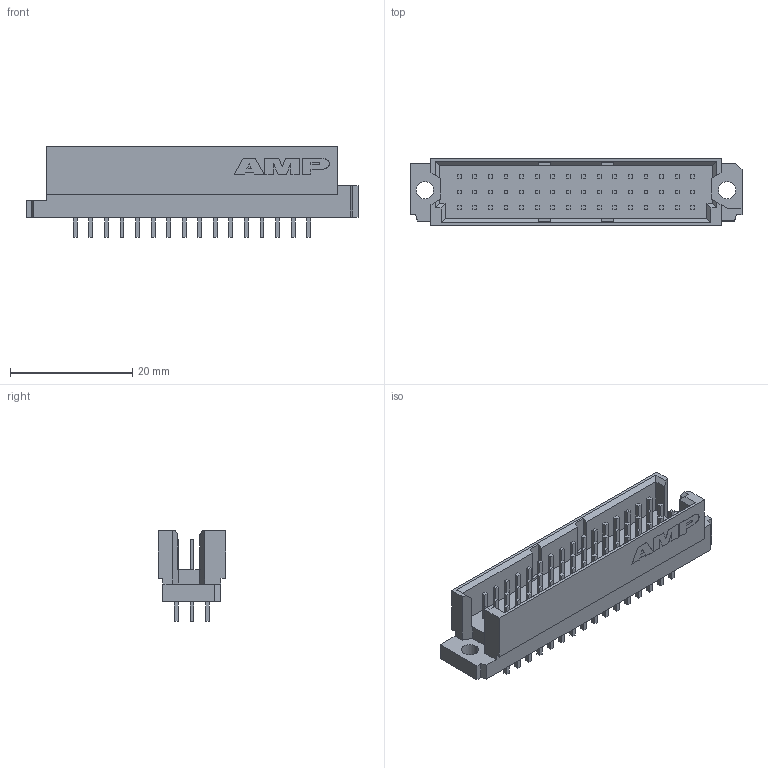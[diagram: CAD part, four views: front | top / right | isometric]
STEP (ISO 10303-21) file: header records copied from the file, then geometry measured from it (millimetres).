
FILE_DESCRIPTION((''),'2;1');
FILE_NAME('C-5650479-05-3','2007-09-02T',('workeradm'),('Tyco Electronics Corporation'),'PRO/ENGINEER BY PARAMETRIC TECHNOLOGY CORPORATION, 2005450','PRO/ENGINEER BY PARAMETRIC TECHNOLOGY CORPORATION, 2005450','');
FILE_SCHEMA(('CONFIG_CONTROL_DESIGN', 'GEOMETRIC_VALIDATION_PROPERTIES_MIM'));
Length unit declared in the file: millimetre
Products named in the file (1): C-5650479-05-3
Bounding box: 54.23 x 11.02 x 14.81 mm (x, y, z)
Volume: 3159.9 mm3; surface area: 4354.5 mm2
Topology: 1 solids, 1 shells, 926 faces, 2404 edges, 1600 vertices
Faces by surface type: plane 919, cylinder 5, extrusion 2
Entity records: 27861 total; most frequent: CARTESIAN_POINT 4969, ORIENTED_EDGE 4808, DIRECTION 4260, EDGE_CURVE 2404, VECTOR 2392, LINE 2390, VERTEX_POINT 1600, EDGE_LOOP 1050
